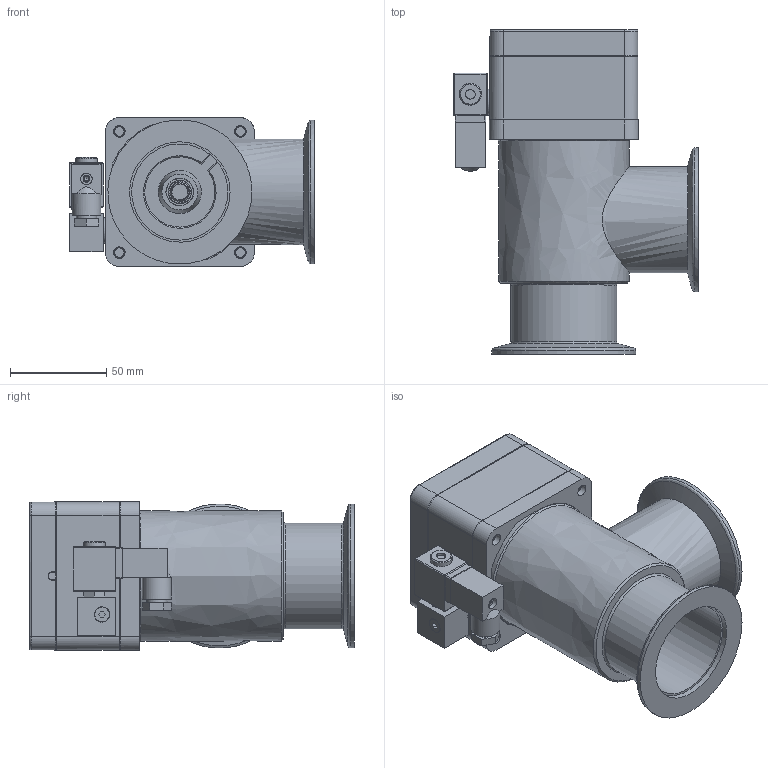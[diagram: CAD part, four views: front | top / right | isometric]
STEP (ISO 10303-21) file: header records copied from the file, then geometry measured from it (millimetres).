
FILE_DESCRIPTION((''),'2;1');
FILE_NAME('C:\TEMP\IDEAS\325584.stp','2006-09-19T16:30:05',('User'),( 'SDRC'),'I-DEAS Master Series 9','UNIX','Yes');
FILE_SCHEMA(('CONFIG_CONTROL_DESIGN'));
Length unit declared in the file: millimetre
Assembly tree (16 placements, depth 0):
Bounding box: 127.35 x 168.8 x 77.4 mm (x, y, z)
Volume: 158950.1 mm3; surface area: 165142.7 mm2
Topology: 20 solids, 24 shells, 690 faces, 1698 edges, 1152 vertices
Faces by surface type: bspline 690
Entity records: 21966 total; most frequent: CARTESIAN_POINT 11184, ORIENTED_EDGE 2976, EDGE_CURVE 1488, VERTEX_POINT 954, EDGE_LOOP 717, FACE_OUTER_BOUND 615, ADVANCED_FACE 615, B_SPLINE_CURVE_WITH_KNOTS 549
